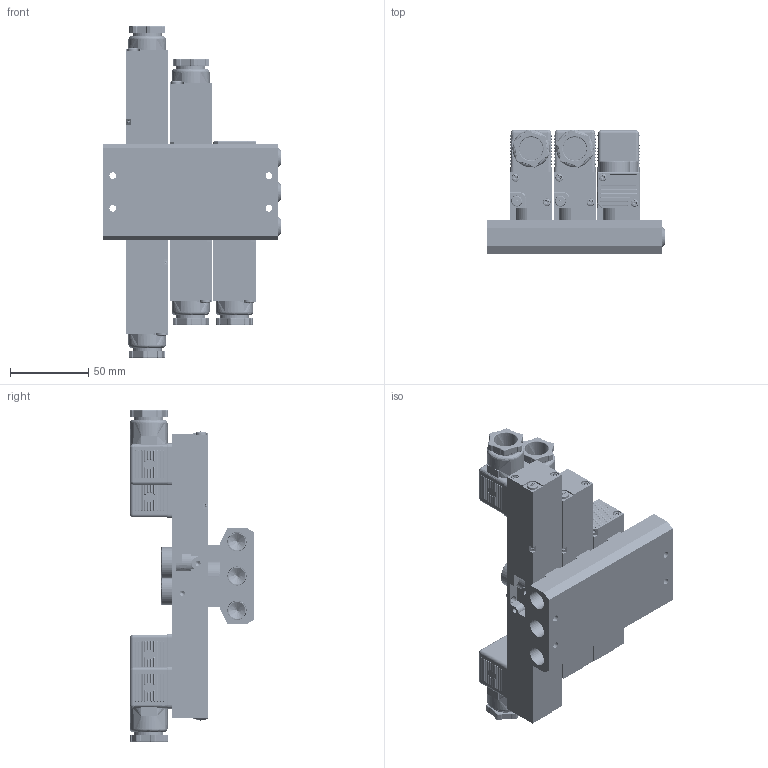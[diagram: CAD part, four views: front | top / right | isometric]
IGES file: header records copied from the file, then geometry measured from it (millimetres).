
Start section: SolidWorks IGES file using analytic representation for surfaces
Global section: file name: D:\Custom\3D繪製\PC\RC06\MFU#-RC06-02-C.IGS,1; native system: 5HSolidWorks 2014; preprocessor: SolidWorks 2014; author: Chieh_Lu; date: 150820.104944; units: millimetre
Bounding box: 113.51 x 79.64 x 212.7 mm (x, y, z)
Surface area: 159151 mm2 (no closed solid volume)
Topology: 0 solids, 0 shells, 3735 faces, 31653 edges, 30877 vertices
Faces by surface type: revolution 2175, bspline 1560
